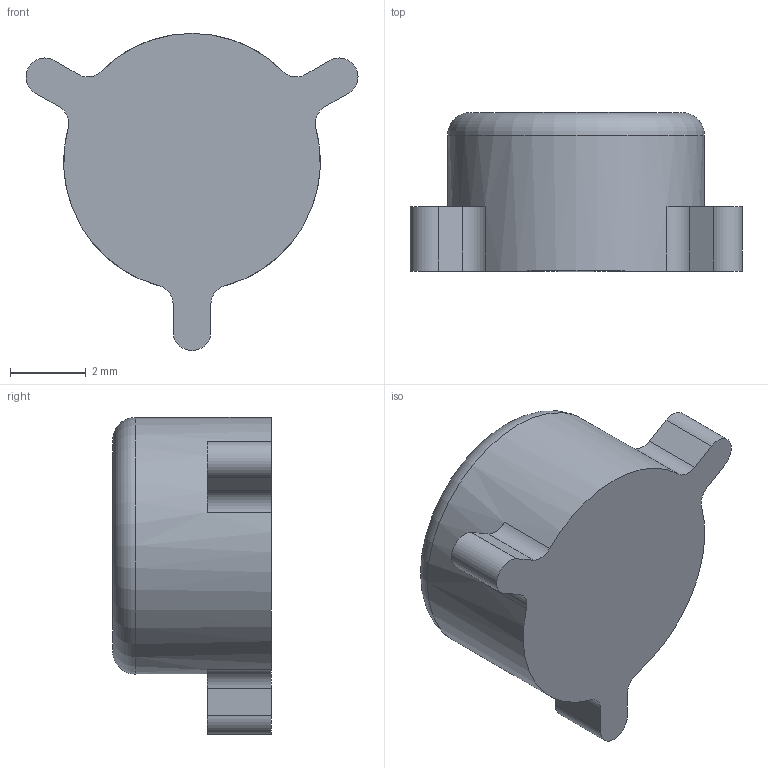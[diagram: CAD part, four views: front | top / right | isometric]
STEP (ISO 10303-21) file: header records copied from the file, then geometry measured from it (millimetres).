
FILE_DESCRIPTION(/* description */ (''),/* implementation_level */ '2;1');
FILE_NAME(/* name */ 'Action Button_B.step',/* time_stamp */ '2022-11-01T13:59:59+09:00',/* author */ (''),/* organization */ (''),/* preprocessor_version */ 'ST-DEVELOPER v19.2',/* originating_system */ 'Autodesk Translation Framework v11.17.0.187',/* authorisation */ '');
FILE_SCHEMA (('AUTOMOTIVE_DESIGN { 1 0 10303 214 3 1 1 }'));
Length unit declared in the file: millimetre
Products named in the file (1): Action Button_B
Bounding box: 8.79 x 4.2 x 8.4 mm (x, y, z)
Volume: 157.7 mm3; surface area: 187.6 mm2
Topology: 1 solids, 1 shells, 43 faces, 114 edges, 76 vertices
Faces by surface type: plane 23, cylinder 10, bspline 9, torus 1
Full cylindrical faces by diameter (mm): 6.8 x1
Entity records: 1803 total; most frequent: CARTESIAN_POINT 723, ORIENTED_EDGE 228, DIRECTION 195, EDGE_CURVE 114, VERTEX_POINT 76, LINE 67, VECTOR 67, AXIS2_PLACEMENT_3D 64
